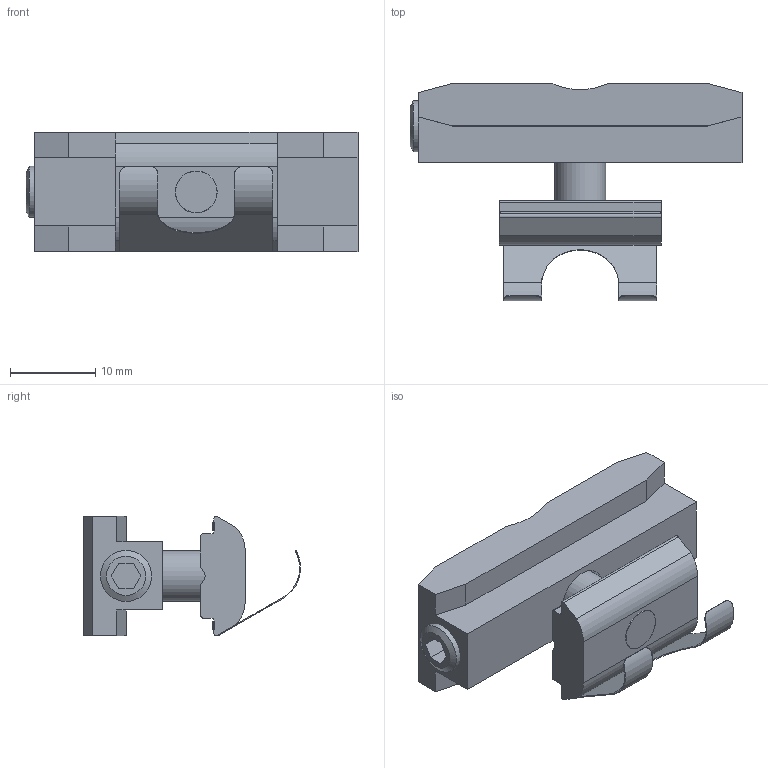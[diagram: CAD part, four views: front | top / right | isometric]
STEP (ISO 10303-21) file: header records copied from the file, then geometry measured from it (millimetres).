
FILE_DESCRIPTION(/* description */ ('STEP AP214'),/* implementation_level */ '2;1');
FILE_NAME(/* name */ '099DC084045N10',/* time_stamp */ '2025-04-03T11:03:44+02:00',/* author */ ('License CC BY-ND 4.0'),/* organization */ ('CADENAS'),/* preprocessor_version */ 'ST-DEVELOPER v19.3',/* originating_system */ 'PARTsolutions',/* authorisation */ ' ');
FILE_SCHEMA (('AUTOMOTIVE_DESIGN {1 0 10303 214 3 1 1}'));
Length unit declared in the file: millimetre
Products named in the file (5): 099DC084045N10; 099DC084045N10-1; 099DC084045N10-2; 099DC084045N10-4; 099DC084045N10-3
Assembly tree (4 placements, depth 2):
  099DC084045N10
    099DC084045N10-1
    099DC084045N10-2
    099DC084045N10-4
    099DC084045N10-3
Bounding box: 39 x 25.5 x 14.02 mm (x, y, z)
Volume: 4612.6 mm3; surface area: 4391.2 mm2
Topology: 4 solids, 4 shells, 124 faces, 330 edges, 212 vertices
Faces by surface type: plane 91, cylinder 27, cone 5, torus 1
Full cylindrical faces by diameter (mm): 3.7 x1, 4.917 x3, 6 x2, 6.5 x1, 11.34 x1
Entity records: 4408 total; most frequent: CARTESIAN_POINT 729, ORIENTED_EDGE 622, DIRECTION 614, EDGE_CURVE 311, LINE 234, VECTOR 234, VERTEX_POINT 207, AXIS2_PLACEMENT_3D 190
